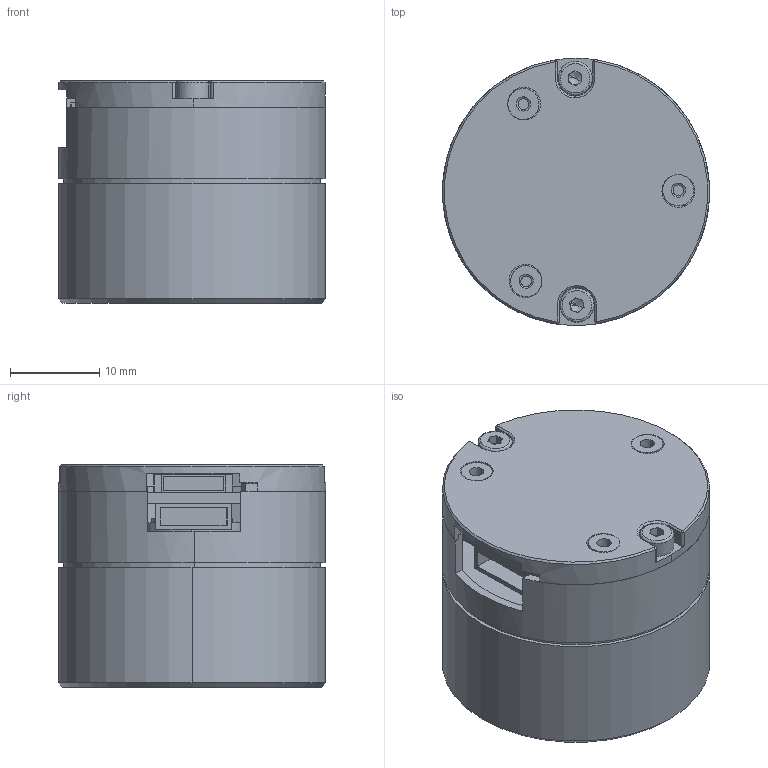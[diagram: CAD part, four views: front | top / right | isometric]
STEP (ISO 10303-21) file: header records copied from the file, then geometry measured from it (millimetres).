
FILE_DESCRIPTION (( 'STEP AP214' ), '1' );
FILE_NAME ('MS3008v2.STEP', '2023-03-26T07:57:21', ( 'zhang_jianheng@outlook.com' ), ( 'HP' ), 'SwSTEP 2.0', 'SolidWorks 2020', '' );
FILE_SCHEMA (( 'AUTOMOTIVE_DESIGN' ));
Length unit declared in the file: millimetre
Products named in the file (1): MS3008v2
Bounding box: 30 x 30 x 25 mm (x, y, z)
Volume: 13503.2 mm3; surface area: 10022.9 mm2
Topology: 8 solids, 8 shells, 364 faces, 930 edges, 595 vertices
Faces by surface type: cylinder 185, plane 134, cone 41, bspline 4
Entity records: 15281 total; most frequent: DIRECTION 2088, CARTESIAN_POINT 1959, ORIENTED_EDGE 1836, EDGE_CURVE 918, AXIS2_PLACEMENT_3D 816, VERTEX_POINT 595, LINE 456, VECTOR 456
